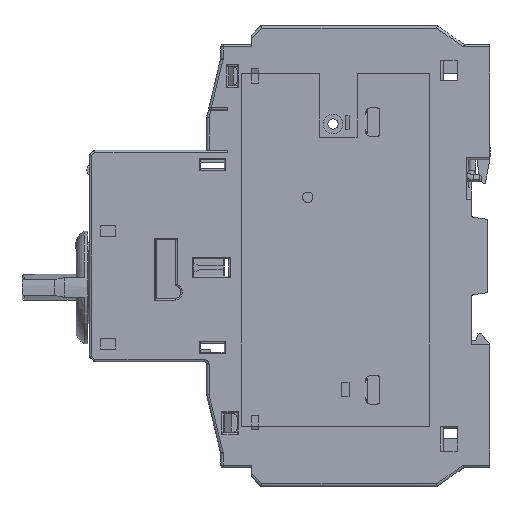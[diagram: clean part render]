
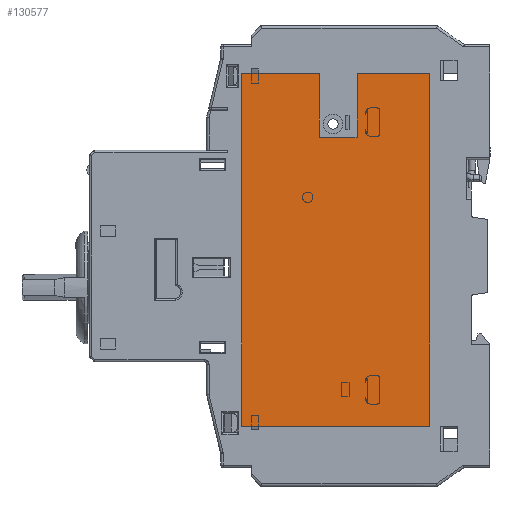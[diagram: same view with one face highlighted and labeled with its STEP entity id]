
A CAD part, left-side view. The second image highlights one B-rep face of the part: STEP entity #130577.
In plain terms, the highlighted planar face has unit normal (-1, 0, 0).
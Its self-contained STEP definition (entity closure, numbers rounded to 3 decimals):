
#33633=DIRECTION('',(0.,-1.,0.));
#33634=VECTOR('',#33633,40.);
#33635=CARTESIAN_POINT('',(-8.2,52.8,-36.2));
#33636=LINE('',#33635,#33634);
#33637=DIRECTION('',(0.,0.,-1.));
#33638=VECTOR('',#33637,75.);
#33639=CARTESIAN_POINT('',(-8.2,52.8,38.8));
#33640=LINE('',#33639,#33638);
#33641=DIRECTION('',(0.,1.,0.));
#33642=VECTOR('',#33641,16.5);
#33643=CARTESIAN_POINT('',(-8.2,36.3,38.8));
#33644=LINE('',#33643,#33642);
#33645=DIRECTION('',(0.,0.,1.));
#33646=VECTOR('',#33645,13.5);
#33647=CARTESIAN_POINT('',(-8.2,36.3,25.3));
#33648=LINE('',#33647,#33646);
#33649=DIRECTION('',(0.,1.,0.));
#33650=VECTOR('',#33649,8.);
#33651=CARTESIAN_POINT('',(-8.2,28.3,25.3));
#33652=LINE('',#33651,#33650);
#33653=DIRECTION('',(0.,0.,-1.));
#33654=VECTOR('',#33653,13.5);
#33655=CARTESIAN_POINT('',(-8.2,28.3,38.8));
#33656=LINE('',#33655,#33654);
#33657=DIRECTION('',(0.,1.,0.));
#33658=VECTOR('',#33657,15.5);
#33659=CARTESIAN_POINT('',(-8.2,12.8,38.8));
#33660=LINE('',#33659,#33658);
#33661=DIRECTION('',(0.,0.,1.));
#33662=VECTOR('',#33661,75.);
#33663=CARTESIAN_POINT('',(-8.2,12.8,-36.2));
#33664=LINE('',#33663,#33662);
#95797=CARTESIAN_POINT('',(-8.2,52.8,-36.2));
#95798=CARTESIAN_POINT('',(-8.2,12.8,-36.2));
#95799=VERTEX_POINT('',#95797);
#95800=VERTEX_POINT('',#95798);
#95801=CARTESIAN_POINT('',(-8.2,12.8,38.8));
#95802=VERTEX_POINT('',#95801);
#95803=CARTESIAN_POINT('',(-8.2,28.3,38.8));
#95804=VERTEX_POINT('',#95803);
#95805=CARTESIAN_POINT('',(-8.2,28.3,25.3));
#95806=VERTEX_POINT('',#95805);
#95807=CARTESIAN_POINT('',(-8.2,36.3,25.3));
#95808=VERTEX_POINT('',#95807);
#95809=CARTESIAN_POINT('',(-8.2,36.3,38.8));
#95810=VERTEX_POINT('',#95809);
#95811=CARTESIAN_POINT('',(-8.2,52.8,38.8));
#95812=VERTEX_POINT('',#95811);
#130562=CARTESIAN_POINT('',(-8.2,32.8,1.3));
#130563=DIRECTION('',(-1.,0.,0.));
#130564=DIRECTION('',(0.,0.,1.));
#130565=AXIS2_PLACEMENT_3D('',#130562,#130563,#130564);
#130566=PLANE('',#130565);
#130567=ORIENTED_EDGE('',*,*,#130453,.F.);
#130568=ORIENTED_EDGE('',*,*,#130470,.F.);
#130569=ORIENTED_EDGE('',*,*,#130484,.F.);
#130570=ORIENTED_EDGE('',*,*,#130501,.F.);
#130571=ORIENTED_EDGE('',*,*,#130515,.F.);
#130572=ORIENTED_EDGE('',*,*,#130529,.F.);
#130573=ORIENTED_EDGE('',*,*,#130543,.F.);
#130574=ORIENTED_EDGE('',*,*,#130556,.F.);
#130575=EDGE_LOOP('',(#130567,#130568,#130569,#130570,#130571,#130572,#130573,
#130574));
#130576=FACE_OUTER_BOUND('',#130575,.F.);
#130577=ADVANCED_FACE('',(#130576),#130566,.T.);
#130453=EDGE_CURVE('',#95799,#95800,#33636,.T.);
#130470=EDGE_CURVE('',#95812,#95799,#33640,.T.);
#130484=EDGE_CURVE('',#95810,#95812,#33644,.T.);
#130501=EDGE_CURVE('',#95808,#95810,#33648,.T.);
#130515=EDGE_CURVE('',#95806,#95808,#33652,.T.);
#130529=EDGE_CURVE('',#95804,#95806,#33656,.T.);
#130543=EDGE_CURVE('',#95802,#95804,#33660,.T.);
#130556=EDGE_CURVE('',#95800,#95802,#33664,.T.);
